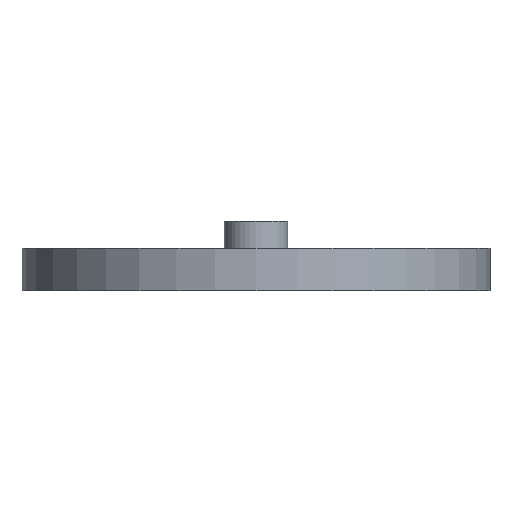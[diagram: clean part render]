
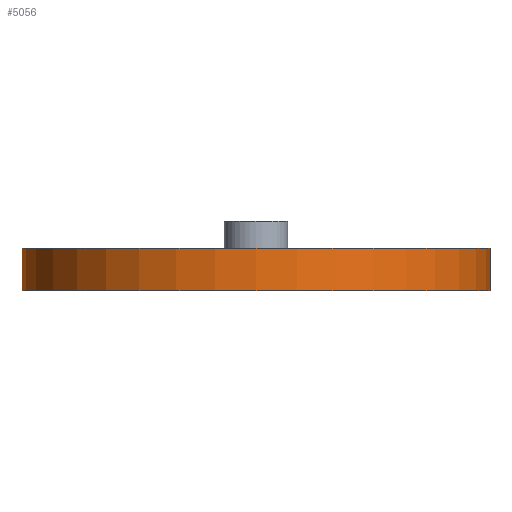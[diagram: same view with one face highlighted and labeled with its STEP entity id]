
A CAD part, left-side view. The second image highlights one B-rep face of the part: STEP entity #5056.
In plain terms, the highlighted cylindrical face has radius 44 mm (diameter 88 mm), a partial arc.
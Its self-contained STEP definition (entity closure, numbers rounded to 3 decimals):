
#22 = EDGE_CURVE ( 'NONE', #14503, #30238, #10551, .T. ) ;
#284 = CARTESIAN_POINT ( 'NONE',  ( 0., -4., 0. ) ) ;
#1794 = LINE ( 'NONE', #12804, #33768 ) ;
#4325 = LINE ( 'NONE', #25629, #17960 ) ;
#4479 = FACE_OUTER_BOUND ( 'NONE', #24442, .T. ) ;
#5056 = ADVANCED_FACE ( 'NONE', ( #4479 ), #10849, .T. ) ;
#7657 = DIRECTION ( 'NONE',  ( 0., 0., -1. ) ) ;
#7796 = ORIENTED_EDGE ( 'NONE', *, *, #22, .T. ) ;
#7859 = CARTESIAN_POINT ( 'NONE',  ( 0., 4., 44. ) ) ;
#8497 = DIRECTION ( 'NONE',  ( 0., -1., 0. ) ) ;
#9473 = AXIS2_PLACEMENT_3D ( 'NONE', #10288, #18366, #7657 ) ;
#9748 = ORIENTED_EDGE ( 'NONE', *, *, #21212, .F. ) ;
#10288 = CARTESIAN_POINT ( 'NONE',  ( 0., 128.451, 0. ) ) ;
#10551 = CIRCLE ( 'NONE', #21484, 44. ) ;
#10849 = CYLINDRICAL_SURFACE ( 'NONE', #9473, 44. ) ;
#12804 = CARTESIAN_POINT ( 'NONE',  ( 0., 128.451, 44. ) ) ;
#13161 = VERTEX_POINT ( 'NONE', #15225 ) ;
#14325 = CARTESIAN_POINT ( 'NONE',  ( 0., 4., 0. ) ) ;
#14503 = VERTEX_POINT ( 'NONE', #18623 ) ;
#14859 = CARTESIAN_POINT ( 'NONE',  ( 0., -4., -44. ) ) ;
#15225 = CARTESIAN_POINT ( 'NONE',  ( 0., -4., 44. ) ) ;
#17960 = VECTOR ( 'NONE', #33958, 1000. ) ;
#18366 = DIRECTION ( 'NONE',  ( 0., -1., 0. ) ) ;
#18623 = CARTESIAN_POINT ( 'NONE',  ( 0., 4., -44. ) ) ;
#21212 = EDGE_CURVE ( 'NONE', #23516, #13161, #26622, .T. ) ;
#21484 = AXIS2_PLACEMENT_3D ( 'NONE', #14325, #30628, #33375 ) ;
#22538 = DIRECTION ( 'NONE',  ( 0., 0., -1. ) ) ;
#23516 = VERTEX_POINT ( 'NONE', #14859 ) ;
#24442 = EDGE_LOOP ( 'NONE', ( #7796, #33745, #9748, #31780 ) ) ;
#25629 = CARTESIAN_POINT ( 'NONE',  ( 0., 128.451, -44. ) ) ;
#26622 = CIRCLE ( 'NONE', #34942, 44. ) ;
#29194 = DIRECTION ( 'NONE',  ( 0., -1., 0. ) ) ;
#30238 = VERTEX_POINT ( 'NONE', #7859 ) ;
#30628 = DIRECTION ( 'NONE',  ( 0., -1., 0. ) ) ;
#30743 = EDGE_CURVE ( 'NONE', #30238, #13161, #1794, .T. ) ;
#31780 = ORIENTED_EDGE ( 'NONE', *, *, #33227, .F. ) ;
#33227 = EDGE_CURVE ( 'NONE', #14503, #23516, #4325, .T. ) ;
#33375 = DIRECTION ( 'NONE',  ( 0., 0., -1. ) ) ;
#33745 = ORIENTED_EDGE ( 'NONE', *, *, #30743, .T. ) ;
#33768 = VECTOR ( 'NONE', #29194, 1000. ) ;
#33958 = DIRECTION ( 'NONE',  ( 0., -1., 0. ) ) ;
#34942 = AXIS2_PLACEMENT_3D ( 'NONE', #284, #8497, #22538 ) ;
